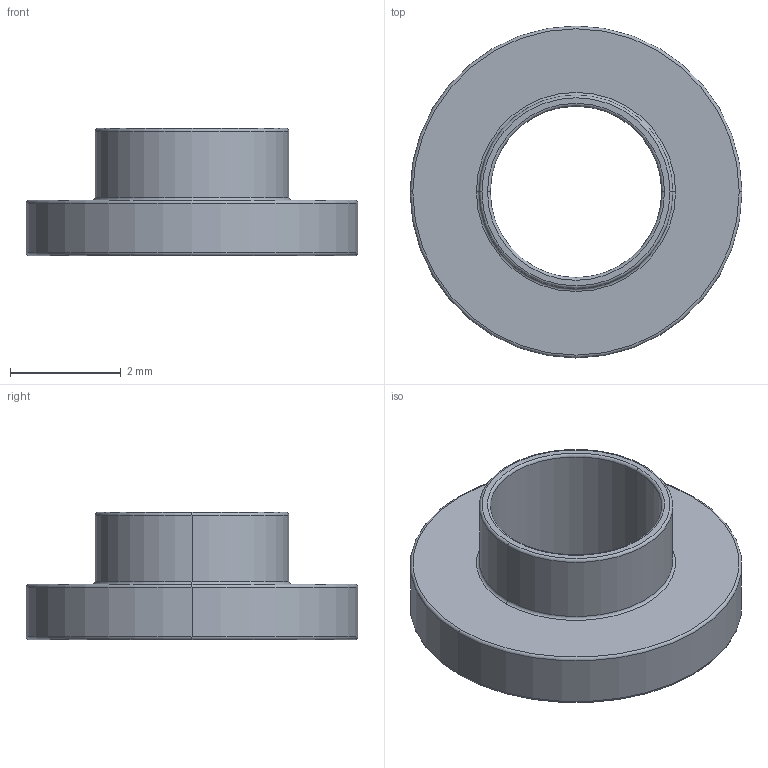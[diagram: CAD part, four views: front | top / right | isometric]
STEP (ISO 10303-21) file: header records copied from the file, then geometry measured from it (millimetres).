
FILE_DESCRIPTION (( 'STEP AP214' ), '1' );
FILE_NAME ('IS 560.STEP', '2004-04-06T14:08:06', ( '' ), ( '' ), 'SwSTEP 2.0', 'SolidWorks 2002349', '' );
FILE_SCHEMA (( 'AUTOMOTIVE_DESIGN' ));
Length unit declared in the file: millimetre
Products named in the file (1): IS 560
Bounding box: 6 x 6 x 2.3 mm (x, y, z)
Volume: 23.4 mm3; surface area: 95.3 mm2
Topology: 1 solids, 1 shells, 21 faces, 42 edges, 24 vertices
Faces by surface type: torus 12, cylinder 6, plane 3
Entity records: 583 total; most frequent: DIRECTION 122, CARTESIAN_POINT 88, ORIENTED_EDGE 84, AXIS2_PLACEMENT_3D 58, EDGE_CURVE 42, CIRCLE 36, VERTEX_POINT 24, EDGE_LOOP 24
